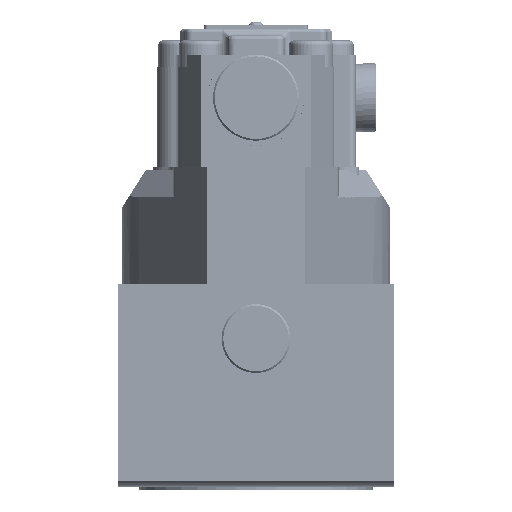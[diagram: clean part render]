
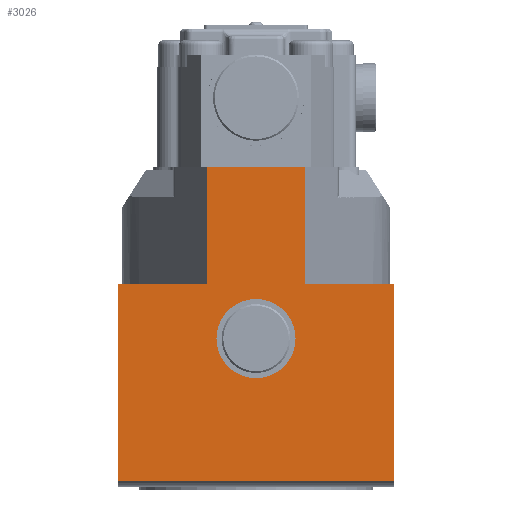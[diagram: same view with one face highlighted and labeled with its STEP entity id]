
A CAD part, left-side view. The second image highlights one B-rep face of the part: STEP entity #3026.
In plain terms, the highlighted planar face has unit normal (-1, 0, 0).
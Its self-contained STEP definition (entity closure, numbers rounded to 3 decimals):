
#1128=LINE('',#38733,#1646);
#1151=LINE('',#38794,#1669);
#1152=LINE('',#38797,#1670);
#1153=LINE('',#38798,#1671);
#1154=LINE('',#38800,#1672);
#1155=LINE('',#38802,#1673);
#1156=LINE('',#38804,#1674);
#1157=LINE('',#38806,#1675);
#1646=VECTOR('',#11919,1.);
#1669=VECTOR('',#11964,1.);
#1670=VECTOR('',#11965,1.);
#1671=VECTOR('',#11966,1.);
#1672=VECTOR('',#11967,1.);
#1673=VECTOR('',#11968,1.);
#1674=VECTOR('',#11969,1.);
#1675=VECTOR('',#11970,1.);
#2620=PLANE('',#10272);
#3026=ADVANCED_FACE('',(#3730,#3731),#2620,.T.);
#3730=FACE_BOUND('',#4294,.T.);
#3731=FACE_BOUND('',#4295,.T.);
#4294=EDGE_LOOP('',(#5802));
#4295=EDGE_LOOP('',(#5803,#5804,#5805,#5806,#5807,#5808,#5809,#5810));
#5802=ORIENTED_EDGE('',*,*,#8682,.F.);
#5803=ORIENTED_EDGE('',*,*,#8683,.F.);
#5804=ORIENTED_EDGE('',*,*,#8684,.T.);
#5805=ORIENTED_EDGE('',*,*,#8653,.F.);
#5806=ORIENTED_EDGE('',*,*,#8685,.T.);
#5807=ORIENTED_EDGE('',*,*,#8686,.F.);
#5808=ORIENTED_EDGE('',*,*,#8687,.F.);
#5809=ORIENTED_EDGE('',*,*,#8688,.T.);
#5810=ORIENTED_EDGE('',*,*,#8689,.F.);
#7626=VERTEX_POINT('',#38734);
#7627=VERTEX_POINT('',#38735);
#7652=VERTEX_POINT('',#38793);
#7653=VERTEX_POINT('',#38795);
#7654=VERTEX_POINT('',#38796);
#7655=VERTEX_POINT('',#38799);
#7656=VERTEX_POINT('',#38801);
#7657=VERTEX_POINT('',#38803);
#7658=VERTEX_POINT('',#38805);
#8653=EDGE_CURVE('',#7626,#7627,#1128,.T.);
#8682=EDGE_CURVE('',#7652,#7652,#9591,.T.);
#8683=EDGE_CURVE('',#7653,#7654,#1151,.T.);
#8684=EDGE_CURVE('',#7653,#7627,#1152,.T.);
#8685=EDGE_CURVE('',#7626,#7655,#1153,.T.);
#8686=EDGE_CURVE('',#7656,#7655,#1154,.T.);
#8687=EDGE_CURVE('',#7657,#7656,#1155,.T.);
#8688=EDGE_CURVE('',#7657,#7658,#1156,.T.);
#8689=EDGE_CURVE('',#7654,#7658,#1157,.T.);
#9591=CIRCLE('',#10271,11.5);
#10271=AXIS2_PLACEMENT_3D('',#38792,#11962,#11963);
#10272=AXIS2_PLACEMENT_3D('',#38807,#11971,#11972);
#11919=DIRECTION('',(0.,1.,0.));
#11962=DIRECTION('',(-1.,0.,0.));
#11963=DIRECTION('',(0.,0.,-1.));
#11964=DIRECTION('',(0.,-1.,0.));
#11965=DIRECTION('',(0.,0.,-1.));
#11966=DIRECTION('',(0.,0.,1.));
#11967=DIRECTION('',(0.,-1.,0.));
#11968=DIRECTION('',(0.,0.,-1.));
#11969=DIRECTION('',(0.,1.,0.));
#11970=DIRECTION('',(0.,0.,1.));
#11971=DIRECTION('',(-1.,0.,0.));
#11972=DIRECTION('',(0.,0.,1.));
#38733=CARTESIAN_POINT('',(-745.26,136.121,-1.245));
#38734=CARTESIAN_POINT('',(-745.26,-96.932,-1.245));
#38735=CARTESIAN_POINT('',(-745.26,-16.932,-1.245));
#38792=CARTESIAN_POINT('',(-745.26,-56.932,40.));
#38793=CARTESIAN_POINT('',(-745.26,-56.932,28.5));
#38794=CARTESIAN_POINT('',(-745.26,-17.932,56.));
#38795=CARTESIAN_POINT('',(-745.26,-16.932,56.));
#38796=CARTESIAN_POINT('',(-745.26,-42.653,56.));
#38797=CARTESIAN_POINT('',(-745.26,-16.932,47.5));
#38798=CARTESIAN_POINT('',(-745.26,-96.932,47.5));
#38799=CARTESIAN_POINT('',(-745.26,-96.932,56.));
#38800=CARTESIAN_POINT('',(-745.26,-98.332,56.));
#38801=CARTESIAN_POINT('',(-745.26,-71.211,56.));
#38802=CARTESIAN_POINT('',(-745.26,-71.211,56.));
#38803=CARTESIAN_POINT('',(-745.26,-71.211,90.));
#38804=CARTESIAN_POINT('',(-745.26,-98.332,90.));
#38805=CARTESIAN_POINT('',(-745.26,-42.653,90.));
#38806=CARTESIAN_POINT('',(-745.26,-42.653,56.));
#38807=CARTESIAN_POINT('',(-745.26,-56.932,47.5));
